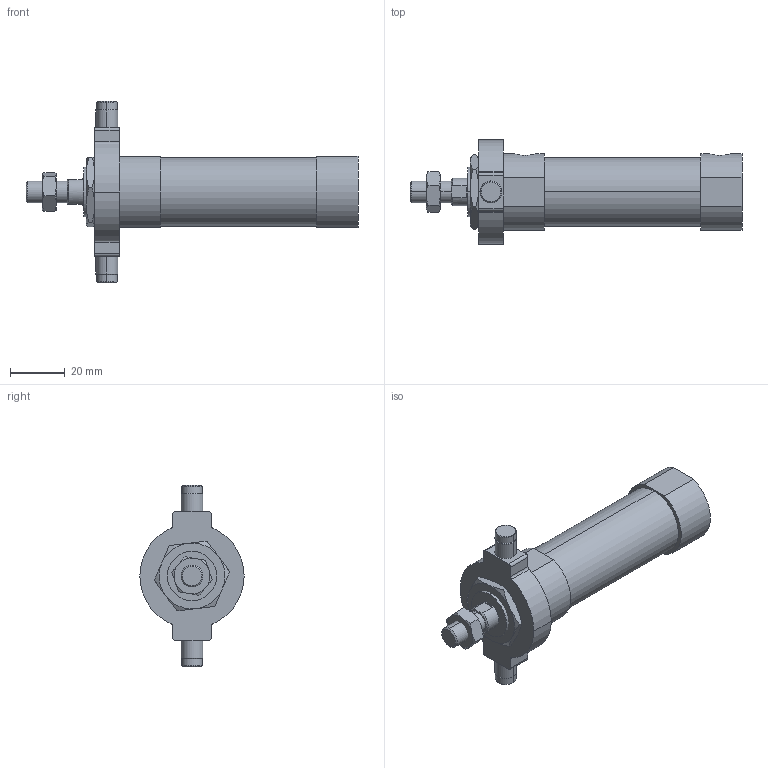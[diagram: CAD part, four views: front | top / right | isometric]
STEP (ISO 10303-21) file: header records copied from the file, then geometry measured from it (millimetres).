
FILE_DESCRIPTION (( 'STEP AP203' ), '1' );
FILE_NAME ('JGND2-20-25-T.STEP', '2016-08-04T02:22:16', ( '' ), ( '' ), 'SwSTEP 2.0', 'SolidWorks 2014', '' );
FILE_SCHEMA (( 'CONFIG_CONTROL_DESIGN' ));
Length unit declared in the file: millimetre
Products named in the file (5): J#2-20-T; J#2-20-25(P); JGND2-20-25-T
Assembly tree (4 placements, depth 2):
  JGND2-20-25-T
    J#2-20-25(P)
    (unnamed)
    (unnamed)
    J#2-20-T
Bounding box: 121 x 38 x 66 mm (x, y, z)
Volume: 60258.5 mm3; surface area: 16237.3 mm2
Topology: 4 solids, 4 shells, 123 faces, 275 edges, 170 vertices
Faces by surface type: plane 44, cylinder 43, torus 24, cone 12
Entity records: 4286 total; most frequent: CARTESIAN_POINT 1031, DIRECTION 597, ORIENTED_EDGE 550, EDGE_CURVE 275, AXIS2_PLACEMENT_3D 248, VERTEX_POINT 170, EDGE_LOOP 139, FACE_OUTER_BOUND 123
